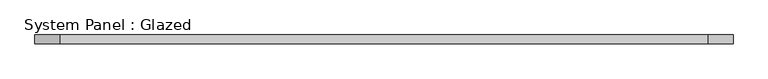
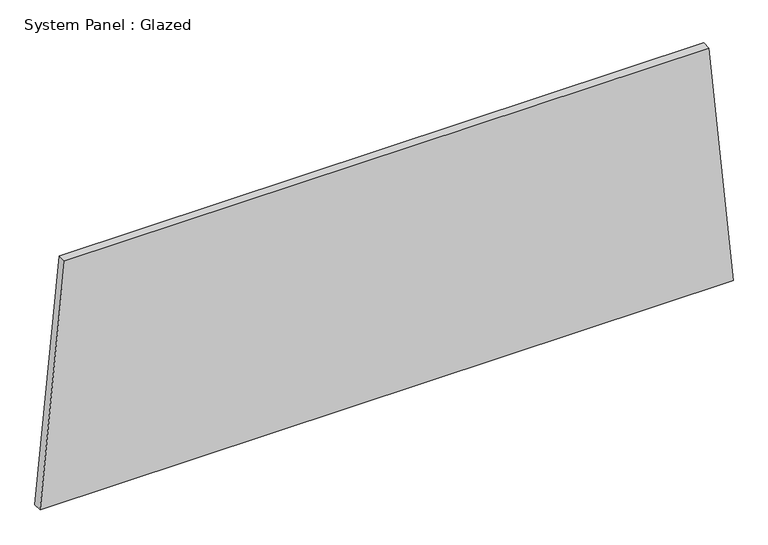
"""IFC4 building model written with IfcOpenShell, lengths in millimetres: plate geometry, System Panel : Glazed."""

from ifc_helpers import new_model, si_unit, frame, origin, place, context, project, spatial, polyline, outline, extrude, source, transform, mapped, element, save


def system_panel_glazed_9944c64d(model_context):
    return source(origin(), model_context, "Body", "SweptSolid", [
        extrude(outline(polyline([(0.0, -997.822278), (0.0, 997.822278), (733.1174891, 927.4907696), (733.1174891, -927.4907696), (0.0, -997.822278)])), frame((0.0, -44.45, 0.0), z_axis=(0.0, 1.0, 0.0), x_axis=(0.0, 0.0, 1.0)), (0.0, 0.0, 1.0), 25.4),
    ])


if __name__ == "__main__":
    model = new_model("IFC4")
    model_context = context("Model", 3, world=origin())
    ifc_project = project(units=[si_unit("LENGTHUNIT", "METRE", prefix="MILLI")], contexts=[model_context])
    site = spatial("IfcSite", under=ifc_project)
    building = spatial("IfcBuilding", under=site)
    placement = place(None, origin())
    system_panel_glazed_shape = system_panel_glazed_9944c64d(model_context)
    element("IfcPlate", 1, ObjectType="System Panel : Glazed", at=placement, inside=building, context=model_context, shape_type="MappedRepresentation", body=[
        mapped(system_panel_glazed_shape, transform((0.0, 0.0, 0.0), x_axis=(1.0, 0.0, 0.0), y_axis=(0.0, 1.0, 0.0), z_axis=(0.0, 0.0, 1.0))),
    ])
    save(model, "model.ifc")
